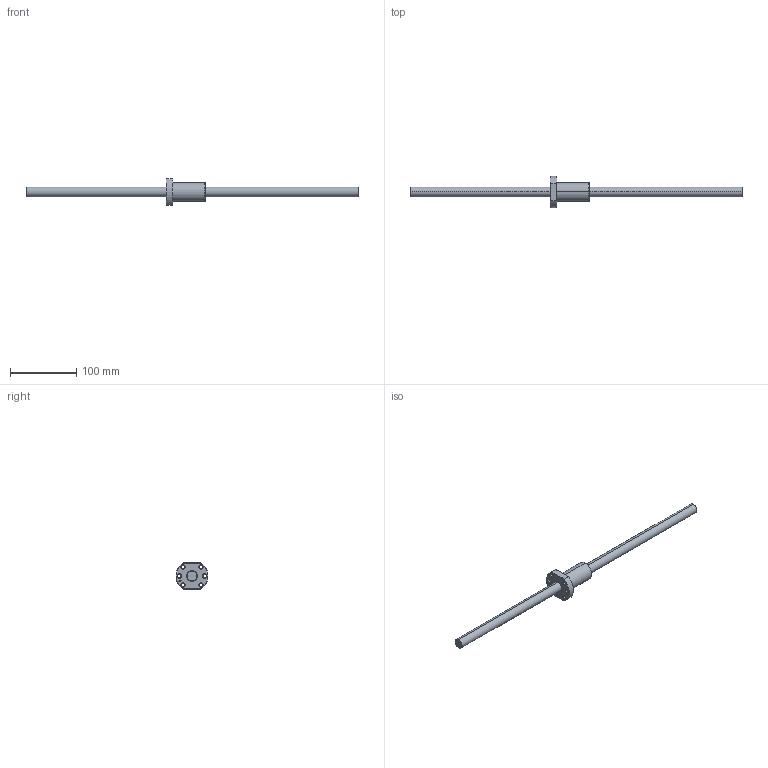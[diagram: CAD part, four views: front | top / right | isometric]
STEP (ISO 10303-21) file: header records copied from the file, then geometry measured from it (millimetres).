
FILE_DESCRIPTION (( 'STEP AP203' ), '1' );
FILE_NAME ('SFB1616-2.8.STEP', '2024-08-12T09:12:57', ( '' ), ( '' ), 'SwSTEP 2.0', 'SolidWorks 2022', '' );
FILE_SCHEMA (( 'CONFIG_CONTROL_DESIGN' ));
Length unit declared in the file: millimetre
Products named in the file (1): SFB1616-2.8
Bounding box: 500 x 48 x 40 mm (x, y, z)
Volume: 120612.6 mm3; surface area: 36537.4 mm2
Topology: 2 solids, 2 shells, 85 faces, 210 edges, 130 vertices
Faces by surface type: cylinder 35, cone 26, plane 12, bspline 6, torus 6
Entity records: 5531 total; most frequent: CARTESIAN_POINT 3492, ORIENTED_EDGE 420, DIRECTION 403, EDGE_CURVE 210, AXIS2_PLACEMENT_3D 164, VERTEX_POINT 130, EDGE_LOOP 102, ADVANCED_FACE 85
